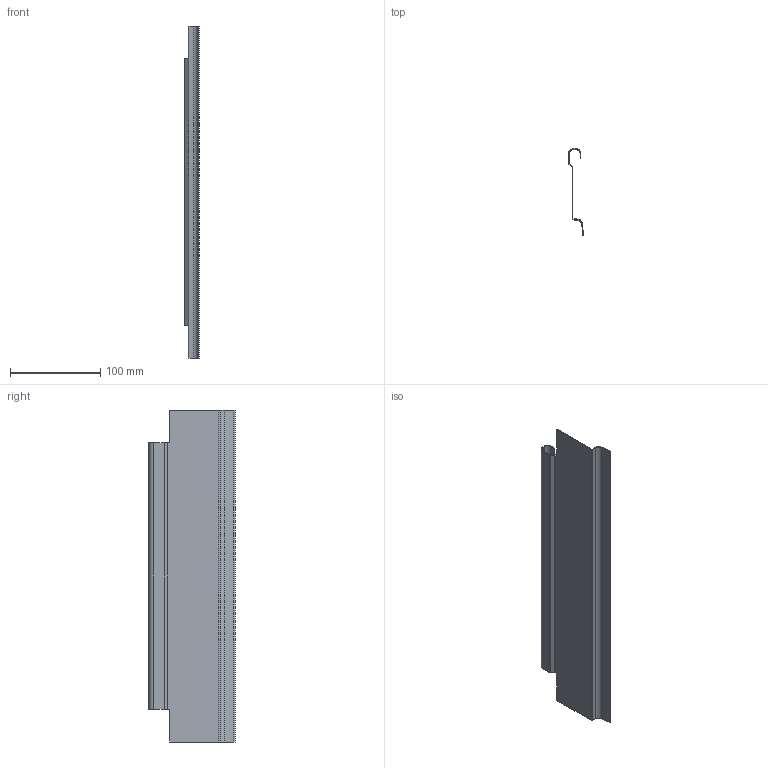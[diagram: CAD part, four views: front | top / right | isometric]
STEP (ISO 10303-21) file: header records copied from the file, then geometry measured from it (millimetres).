
FILE_DESCRIPTION (( 'STEP AP214' ), '1' );
FILE_NAME ('_Solowing NL400.step', '2010-07-14T13:31:54', ( 'grass' ), ( '' ), 'SwSTEP 2.0', 'SolidWorks 2010', '' );
FILE_SCHEMA (( 'AUTOMOTIVE_DESIGN' ));
Length unit declared in the file: millimetre
Products named in the file (1): _Solowing NL400
Bounding box: 16.3 x 96 x 368 mm (x, y, z)
Volume: 33904.9 mm3; surface area: 85549.2 mm2
Topology: 1 solids, 1 shells, 46 faces, 108 edges, 64 vertices
Faces by surface type: plane 36, cylinder 10
Entity records: 1314 total; most frequent: DIRECTION 222, CARTESIAN_POINT 219, ORIENTED_EDGE 216, EDGE_CURVE 108, LINE 88, VECTOR 88, AXIS2_PLACEMENT_3D 67, VERTEX_POINT 64
